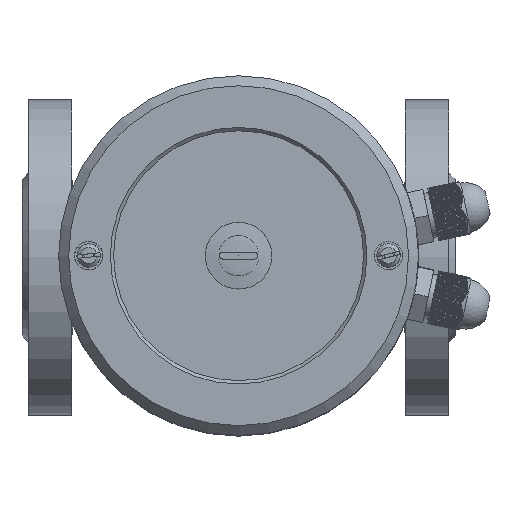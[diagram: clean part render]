
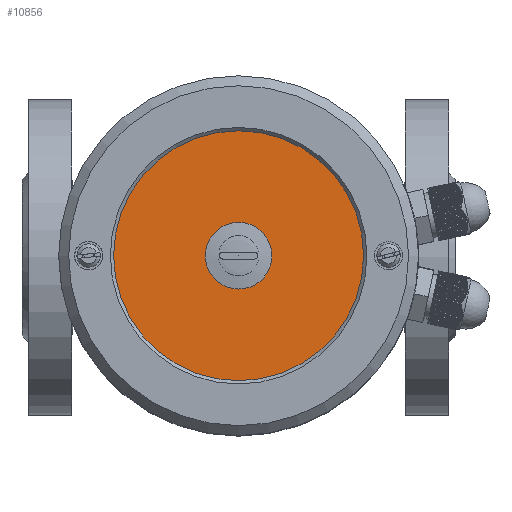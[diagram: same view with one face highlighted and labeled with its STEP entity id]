
A CAD part, top view. The second image highlights one B-rep face of the part: STEP entity #10856.
In plain terms, the highlighted planar face has unit normal (0, 0, 1).
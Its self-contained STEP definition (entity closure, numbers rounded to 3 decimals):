
#10856=ADVANCED_FACE('',(#30258,#30260),#30262,.T.);
#30258=FACE_BOUND('',#30259,.T.);
#30259=EDGE_LOOP('',(#43592));
#30260=FACE_BOUND('',#30261,.T.);
#30261=EDGE_LOOP('',(#43593));
#30262=PLANE('',#30263);
#30263=AXIS2_PLACEMENT_3D('',#30264,#30265,#30266);
#30264=CARTESIAN_POINT('',(0.,0.,339.506));
#30265=DIRECTION('',(0.,0.,1.));
#30266=DIRECTION('',(1.,0.,0.));
#43592=ORIENTED_EDGE('',*,*,#50917,.T.);
#43593=ORIENTED_EDGE('',*,*,#50922,.F.);
#50917=EDGE_CURVE('',#58353,#58353,#58354,.T.);
#50922=EDGE_CURVE('',#58363,#58363,#58364,.T.);
#58353=VERTEX_POINT('',#97857);
#58354=CIRCLE('',#97858,37.5);
#58363=VERTEX_POINT('',#97882);
#58364=CIRCLE('',#97883,10.007);
#97857=CARTESIAN_POINT('',(37.5,0.,339.506));
#97858=AXIS2_PLACEMENT_3D('',#97859,#97860,#97861);
#97859=CARTESIAN_POINT('',(0.,0.,339.506));
#97860=DIRECTION('',(0.,0.,1.));
#97861=DIRECTION('',(1.,0.,0.));
#97882=CARTESIAN_POINT('',(10.007,0.,339.506));
#97883=AXIS2_PLACEMENT_3D('',#97884,#97885,#97886);
#97884=CARTESIAN_POINT('',(0.,0.,339.506));
#97885=DIRECTION('',(0.,0.,1.));
#97886=DIRECTION('',(1.,0.,0.));
